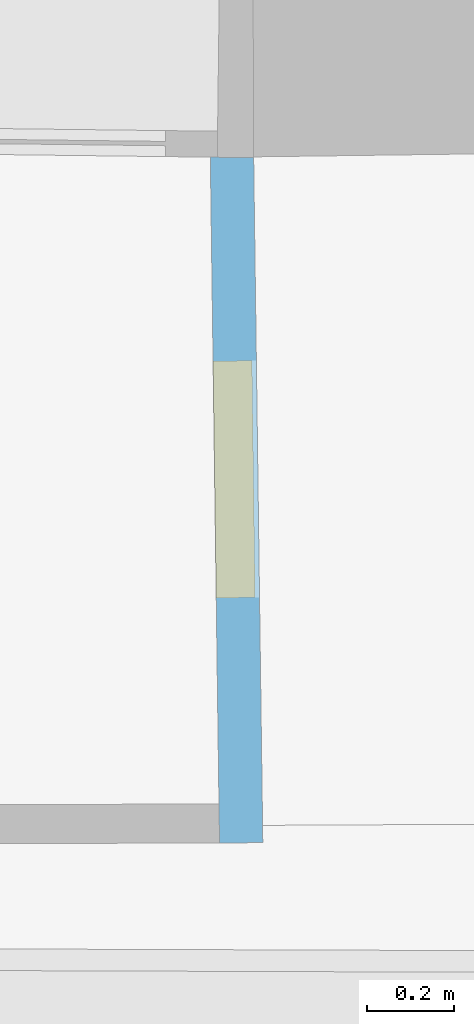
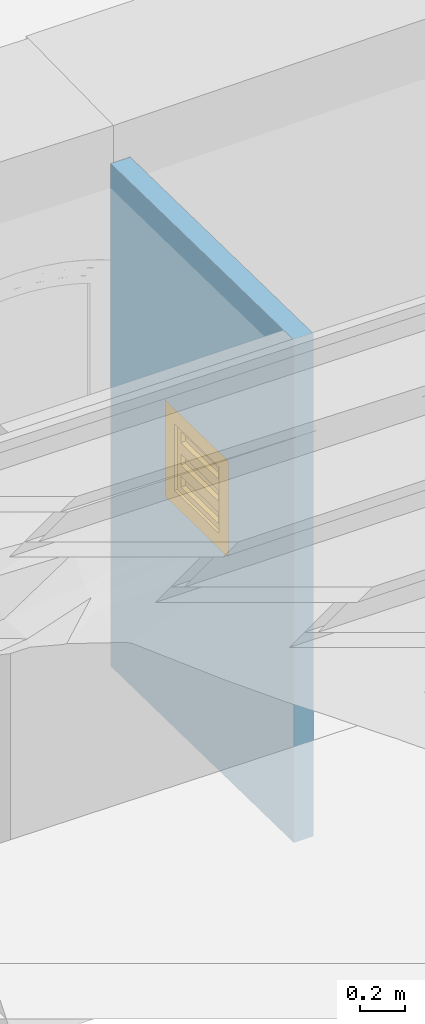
# One storey, part 112 of 133: 1 window, 1 opening, plus 1 element that does not belong to this part.
"""IFC2X3 building model written with IfcOpenShell, lengths in centimetres."""

from ifc_helpers import new_model, entity, si_unit, converted_unit, direction, frame, origin, origin_with_axes, place, context, subcontext, project, spatial, polyline, outline, extrude, faceted_brep, shape, source, transform, mapped, material, material_list, layer, layer_set, layer_usage, type_object, element, fill, save


model = new_model("IFC2X3")

# Units and contexts
model_context = context("Model", 3, precision=0.0001, world=origin(), true_north=direction((0.225632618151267, 0.974212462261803, 0.0)))
body_context = subcontext(model_context, "Body", "Model", "MODEL_VIEW")
footprint_context = subcontext(model_context, "FootPrint", "Model", "MODEL_VIEW")
profile_context = subcontext(model_context, "Profile", "Model", "MODEL_VIEW")
ifc_project = project(units=[si_unit("LENGTHUNIT", "METRE", prefix="CENTI"), si_unit("AREAUNIT", "SQUARE_METRE", prefix="CENTI"), si_unit("VOLUMEUNIT", "CUBIC_METRE", prefix="CENTI"), converted_unit("PLANEANGLEUNIT", "DEGREE", entity("IfcRatioMeasure", 0.0174532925), si_unit("PLANEANGLEUNIT", "RADIAN"), dimensions=[0, 0, 0, 0, 0, 0, 0])], contexts=[model_context])

# Site, building, storey
site_placement = place(None, origin_with_axes())
site = spatial("IfcSite", under=ifc_project, at=site_placement, Name="Default Site", CompositionType="ELEMENT")
building_placement = place(site_placement, origin_with_axes())
building = spatial("IfcBuilding", under=site, at=building_placement, Name="Default Building", CompositionType="ELEMENT")
storey_placement = place(building_placement, frame((0.0, 0.0, -291.400371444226), z_axis=(0.0, 0.0, 1.0), x_axis=(1.0, 0.0, 0.0)))
storey = spatial("IfcBuildingStorey", under=building, at=storey_placement, Name="Rez-de-Jardin", CompositionType="ELEMENT", Elevation=-291.400371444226)

# Wall, opening, window
ifc_material_1 = material(Name="<aucun>")
ifc_layer = layer(ifc_material_1, 10.0)
ifc_layer_set = layer_set([ifc_layer], Name="default")
ifc_layer_usage = layer_usage(ifc_layer_set, "AXIS2", "POSITIVE", -5.0)
wall_type = type_object("IfcWallType", Name="default 100", PredefinedType="NOTDEFINED", material=ifc_layer_set)
wall_placement = place(storey_placement, frame((-148.861364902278, -902.325236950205, -1.94511073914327e-11), z_axis=(0.0, 0.0, 1.0), x_axis=(-0.0133461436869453, 0.999910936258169, 0.0)))
wall = element("IfcWallStandardCase", 1, at=wall_placement, inside=storey, type_object=wall_type, material=ifc_layer_usage, Name="Enveloppe 72368", context=body_context, shape_type="SweptSolid", body=[
    extrude(outline(polyline([(149.327648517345, 5.00000000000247), (-9.00040519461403, 4.99999999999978), (-9.09529738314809, -5.00000000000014), (149.072238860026, -4.99999999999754), (149.327648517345, 5.00000000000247)])), frame((0.0, 0.0, 8.88178419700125e-14), z_axis=(0.0, 0.0, 1.0), x_axis=(1.0, 0.0, 0.0)), (0.0, 0.0, 1.0), 271.400371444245),
])
opening_placement = place(wall_placement, frame((47.5246104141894, 7.95807864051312e-13, 120.102565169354), z_axis=(0.0, 0.0, 1.0), x_axis=(-1.0, -1.6603038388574e-14, 0.0)))
cartesian_point_1 = entity("IfcCartesianPoint", [0.0, 0.0, 52.0])
cartesian_point_2 = entity("IfcCartesianPoint", [-54.7169568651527, -5.0])
opening = element("IfcOpeningElement", 2, at=opening_placement, cuts=wall, Name="4294966473_11", ObjectType="Opening", shapes=[
    shape(body_context, "Body", "SweptSolid", [extrude(outline(polyline([(1.77635683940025e-13, 52.0), (1.77635683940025e-13, -2.22044604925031e-14), (54.7169568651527, -2.22044604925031e-14), (54.7169568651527, 52.0), (1.77635683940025e-13, 52.0)])), frame((0.0, -15.0, 0.0), z_axis=(0.0, 1.0, 0.0), x_axis=(-1.0, 0.0, 0.0)), (0.0, 0.0, 1.0), 30.0)]),
    shape(profile_context, "Profile", "GeometricCurveSet", [entity("IfcGeometricCurveSet", [entity("IfcPolyline", [cartesian_point_1, entity("IfcCartesianPoint", [0.0, 0.0, -2.22044604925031e-14]), entity("IfcCartesianPoint", [-54.7169568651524, 2.22044604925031e-14, -2.22044604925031e-14]), entity("IfcCartesianPoint", [-54.7169568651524, 2.22044604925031e-14, 52.0]), cartesian_point_1])])]),
    shape(footprint_context, "FootPrint", "GeometricCurveSet", [entity("IfcGeometricCurveSet", [entity("IfcPolyline", [cartesian_point_2, entity("IfcCartesianPoint", [-1.77635683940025e-13, -4.99999999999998]), entity("IfcCartesianPoint", [1.77635683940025e-13, 5.00000000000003]), entity("IfcCartesianPoint", [-54.7169568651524, 5.00000000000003]), cartesian_point_2])])]),
])
ifc_material_2 = material(Name="Transparent")
ifc_material_3 = material(Name="Blanc trafic")
ifc_material_list = material_list([ifc_material_2, ifc_material_3])
window_style = type_object("IfcWindowStyle", Name="Fn 1 montant fixe 2 vitres ép 90", ConstructionType="NOTDEFINED", OperationType="TRIPLE_PANEL_HORIZONTAL", ParameterTakesPrecedence=True, Sizeable=False, material=ifc_material_list)
shared_shape = source(origin_with_axes(), body_context, "Body", "Brep", [
    faceted_brep([(-19.3584784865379, 43.9999997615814, -4.50000017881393), (-19.3584784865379, 43.9999997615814, 4.50000017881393), (-19.3584784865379, 7.99999982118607, 4.50000017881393), (-19.3584784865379, 7.99999982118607, -4.50000017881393), (-27.358478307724, 51.9999980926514, 4.50000017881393), (-27.358478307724, 0.0, 4.50000017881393), (-27.358478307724, 51.9999980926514, -4.50000017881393), (-27.358478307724, 0.0, -4.50000017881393), (19.3584784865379, 7.99999982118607, 4.50000017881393), (19.3584784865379, 7.99999982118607, -4.50000017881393), (27.358478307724, 0.0, 4.50000017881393), (27.358478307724, 0.0, -4.50000017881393), (19.3584784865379, 43.9999997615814, 4.50000017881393), (19.3584784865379, 43.9999997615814, -4.50000017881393), (27.358478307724, 51.9999980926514, 4.50000017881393), (27.358478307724, 51.9999980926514, -4.50000017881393)], [[[0, 1, 2, 3]], [[1, 4, 5, 2]], [[4, 6, 7, 5]], [[6, 0, 3, 7]], [[3, 2, 8, 9]], [[2, 5, 10, 8]], [[5, 7, 11, 10]], [[7, 3, 9, 11]], [[9, 8, 12, 13]], [[8, 10, 14, 12]], [[10, 11, 15, 14]], [[11, 9, 13, 15]], [[13, 12, 1, 0]], [[12, 14, 4, 1]], [[14, 15, 6, 4]], [[15, 13, 0, 6]]]),
    faceted_brep([(-16.3584783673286, 40.9999996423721, -2.99999993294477), (-16.3584783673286, 40.9999996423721, 2.99999993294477), (-16.3584783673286, 34.9999994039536, 2.99999993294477), (-16.3584783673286, 34.9999994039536, -2.99999993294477), (-19.3584784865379, 43.9999997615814, 2.99999993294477), (-19.3584784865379, 31.9999992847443, 2.99999993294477), (-19.3584784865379, 43.9999997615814, -2.99999993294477), (-19.3584784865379, 31.9999992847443, -2.99999993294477), (16.3584783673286, 34.9999994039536, 2.99999993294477), (16.3584783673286, 34.9999994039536, -2.99999993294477), (19.3584784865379, 31.9999992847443, 2.99999993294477), (19.3584784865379, 31.9999992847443, -2.99999993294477), (16.3584783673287, 40.9999996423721, 2.99999993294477), (16.3584783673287, 40.9999996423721, -2.99999993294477), (19.3584784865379, 43.9999997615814, 2.99999993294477), (19.3584784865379, 43.9999997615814, -2.99999993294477)], [[[0, 1, 2, 3]], [[1, 4, 5, 2]], [[4, 6, 7, 5]], [[6, 0, 3, 7]], [[3, 2, 8, 9]], [[2, 5, 10, 8]], [[5, 7, 11, 10]], [[7, 3, 9, 11]], [[9, 8, 12, 13]], [[8, 10, 14, 12]], [[10, 11, 15, 14]], [[11, 9, 13, 15]], [[13, 12, 1, 0]], [[12, 14, 4, 1]], [[14, 15, 6, 4]], [[15, 13, 0, 6]]]),
    faceted_brep([(16.3584783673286, 40.9999996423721, -0.499999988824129), (16.3584783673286, 34.9999994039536, -0.499999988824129), (-16.3584783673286, 34.9999994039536, -0.499999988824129), (-16.3584783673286, 40.9999996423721, -0.499999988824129), (-16.3584783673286, 40.9999996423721, 0.499999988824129), (-16.3584783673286, 34.9999994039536, 0.499999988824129), (16.3584783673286, 34.9999994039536, 0.499999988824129), (16.3584783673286, 40.9999996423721, 0.499999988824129)], [[[0, 1, 2, 3]], [[4, 5, 6, 7]], [[3, 2, 5, 4]], [[2, 1, 6, 5]], [[1, 0, 7, 6]], [[0, 3, 4, 7]]]),
    faceted_brep([(-16.3584783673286, 28.999999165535, -2.99999993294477), (-16.3584783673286, 28.999999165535, 2.99999993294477), (-16.3584783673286, 23.0000004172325, 2.99999993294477), (-16.3584783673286, 23.0000004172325, -2.99999993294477), (-19.3584784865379, 31.9999992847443, 2.99999993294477), (-19.3584784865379, 20.0000002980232, 2.99999993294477), (-19.3584784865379, 31.9999992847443, -2.99999993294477), (-19.3584784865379, 20.0000002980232, -2.99999993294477), (16.3584783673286, 23.0000004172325, 2.99999993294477), (16.3584783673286, 23.0000004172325, -2.99999993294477), (19.3584784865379, 20.0000002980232, 2.99999993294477), (19.3584784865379, 20.0000002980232, -2.99999993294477), (16.3584783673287, 28.999999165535, 2.99999993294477), (16.3584783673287, 28.999999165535, -2.99999993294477), (19.3584784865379, 31.9999992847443, 2.99999993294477), (19.3584784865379, 31.9999992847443, -2.99999993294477)], [[[0, 1, 2, 3]], [[1, 4, 5, 2]], [[4, 6, 7, 5]], [[6, 0, 3, 7]], [[3, 2, 8, 9]], [[2, 5, 10, 8]], [[5, 7, 11, 10]], [[7, 3, 9, 11]], [[9, 8, 12, 13]], [[8, 10, 14, 12]], [[10, 11, 15, 14]], [[11, 9, 13, 15]], [[13, 12, 1, 0]], [[12, 14, 4, 1]], [[14, 15, 6, 4]], [[15, 13, 0, 6]]]),
    faceted_brep([(16.3584783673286, 28.999999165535, -0.499999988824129), (16.3584783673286, 23.0000004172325, -0.499999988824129), (-16.3584783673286, 23.0000004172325, -0.499999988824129), (-16.3584783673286, 28.999999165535, -0.499999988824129), (-16.3584783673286, 28.999999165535, 0.499999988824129), (-16.3584783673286, 23.0000004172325, 0.499999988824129), (16.3584783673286, 23.0000004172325, 0.499999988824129), (16.3584783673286, 28.999999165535, 0.499999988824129)], [[[0, 1, 2, 3]], [[4, 5, 6, 7]], [[3, 2, 5, 4]], [[2, 1, 6, 5]], [[1, 0, 7, 6]], [[0, 3, 4, 7]]]),
    faceted_brep([(-16.3584783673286, 17.0000001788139, -2.99999993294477), (-16.3584783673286, 17.0000001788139, 2.99999993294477), (-16.3584783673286, 10.9999999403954, 2.99999993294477), (-16.3584783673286, 10.9999999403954, -2.99999993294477), (-19.3584784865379, 20.0000002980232, 2.99999993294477), (-19.3584784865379, 7.99999982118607, 2.99999993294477), (-19.3584784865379, 20.0000002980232, -2.99999993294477), (-19.3584784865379, 7.99999982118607, -2.99999993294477), (16.3584783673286, 10.9999999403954, 2.99999993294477), (16.3584783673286, 10.9999999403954, -2.99999993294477), (19.3584784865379, 7.99999982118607, 2.99999993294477), (19.3584784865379, 7.99999982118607, -2.99999993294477), (16.3584783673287, 17.0000001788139, 2.99999993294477), (16.3584783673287, 17.0000001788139, -2.99999993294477), (19.3584784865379, 20.0000002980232, 2.99999993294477), (19.3584784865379, 20.0000002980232, -2.99999993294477)], [[[0, 1, 2, 3]], [[1, 4, 5, 2]], [[4, 6, 7, 5]], [[6, 0, 3, 7]], [[3, 2, 8, 9]], [[2, 5, 10, 8]], [[5, 7, 11, 10]], [[7, 3, 9, 11]], [[9, 8, 12, 13]], [[8, 10, 14, 12]], [[10, 11, 15, 14]], [[11, 9, 13, 15]], [[13, 12, 1, 0]], [[12, 14, 4, 1]], [[14, 15, 6, 4]], [[15, 13, 0, 6]]]),
    faceted_brep([(16.3584783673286, 17.0000001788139, -0.499999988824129), (16.3584783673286, 10.9999999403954, -0.499999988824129), (-16.3584783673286, 10.9999999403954, -0.499999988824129), (-16.3584783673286, 17.0000001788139, -0.499999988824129), (-16.3584783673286, 17.0000001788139, 0.499999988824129), (-16.3584783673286, 10.9999999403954, 0.499999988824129), (16.3584783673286, 10.9999999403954, 0.499999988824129), (16.3584783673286, 17.0000001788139, 0.499999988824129)], [[[0, 1, 2, 3]], [[4, 5, 6, 7]], [[3, 2, 5, 4]], [[2, 1, 6, 5]], [[1, 0, 7, 6]], [[0, 3, 4, 7]]]),
])
window_placement = place(opening_placement, frame((-54.7169568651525, -5.00000000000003, 0.0), z_axis=(0.0, 0.0, 1.0), x_axis=(1.0, 0.0, 0.0)))
window = element("IfcWindow", 3, at=window_placement, inside=storey, type_object=window_style, material=ifc_material_list, Name="Fenêtre 74089", OverallHeight=52.0, OverallWidth=54.7169568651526, context=body_context, shape_type="MappedRepresentation", body=[
    mapped(shared_shape, transform((27.3584784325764, 4.50000000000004, 6.66133814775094e-14), x_axis=(-1.0, 0.0, 0.0), y_axis=(0.0, 0.0, 1.0), z_axis=(0.0, 1.0, 0.0), scale=1.0, scale2=1.0, scale3=1.0, uniform=False)),
])
fill(opening, window)

save(model, "model.ifc")
